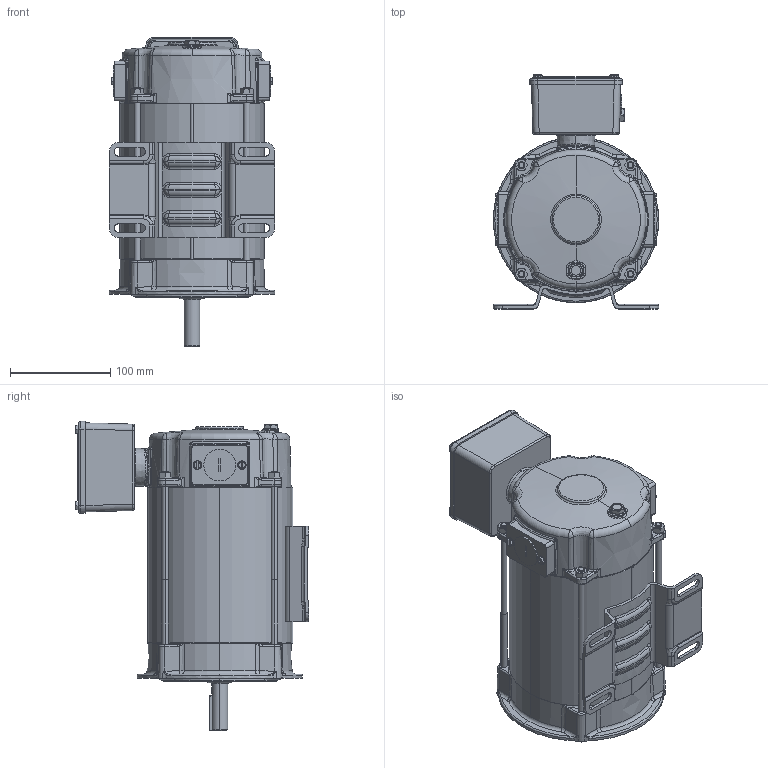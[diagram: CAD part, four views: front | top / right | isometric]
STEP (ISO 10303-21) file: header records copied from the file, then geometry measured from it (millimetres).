
FILE_DESCRIPTION (( 'STEP AP203' ), '1' );
FILE_NAME ('031740-NS56C_RevA.STEP', '2018-02-20T17:28:22', ( 'RBC' ), ( 'RBC' ), 'SwSTEP 2.0', 'SolidWorks 2015', '' );
FILE_SCHEMA (( 'CONFIG_CONTROL_DESIGN' ));
Length unit declared in the file: inch
Products named in the file (1): 031740-NS56C_RevA
Bounding box: 165.1 x 233.03 x 308.6 mm (x, y, z)
Volume: 1037098.2 mm3; surface area: 507791.8 mm2
Topology: 46 solids, 46 shells, 2452 faces, 5815 edges, 3438 vertices
Faces by surface type: cylinder 623, bspline 597, plane 495, cone 392, torus 307, sphere 38
Entity records: 100456 total; most frequent: CARTESIAN_POINT 48401, ORIENTED_EDGE 11446, DIRECTION 10232, EDGE_CURVE 5723, AXIS2_PLACEMENT_3D 4329, VERTEX_POINT 3438, EDGE_LOOP 2619, CIRCLE 2473
